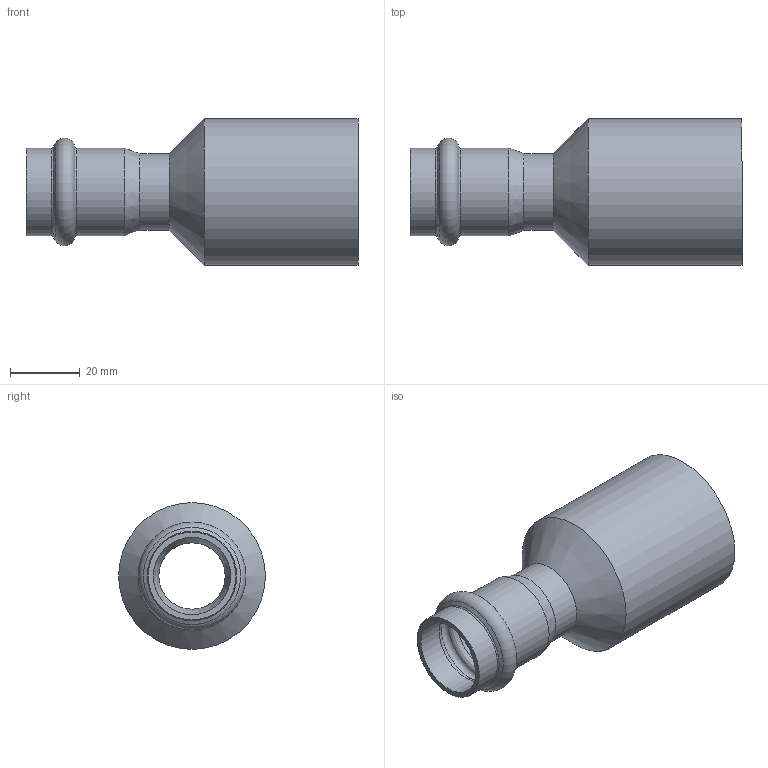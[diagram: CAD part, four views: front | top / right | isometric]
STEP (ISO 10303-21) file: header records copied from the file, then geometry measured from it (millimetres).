
FILE_DESCRIPTION((''),'2;1');
FILE_NAME('G:\Nirosan-Schmiedefeld\Technics\CAD\001 Serie 9.000\042\692434222H(2).stp','2017-05-08T14:32:25',('herberg'),(''),'Autodesk Inventor 2009','Autodesk Inventor 2009','');
FILE_SCHEMA(('AUTOMOTIVE_DESIGN { 1 0 10303 214 1 1 1 1 }'));
Length unit declared in the file: millimetre
Products named in the file (4): 692434222H(2); 69HM22P(1); 69KG4222P(0); 69FXR421544P(0)
Assembly tree (3 placements, depth 2):
  692434222H(2)
    69HM22P(1)
    69KG4222P(0)
    69FXR421544P(0)
Bounding box: 95 x 42 x 42 mm (x, y, z)
Volume: 14708.4 mm3; surface area: 21281.6 mm2
Topology: 3 solids, 3 shells, 26 faces, 48 edges, 28 vertices
Faces by surface type: cylinder 8, cone 6, plane 6, bspline 4, torus 2
Full cylindrical faces by diameter (mm): 19 x1, 22 x1, 22.15 x2, 25.15 x2, 39 x1, 42 x1
Entity records: 815 total; most frequent: CARTESIAN_POINT 261, DIRECTION 110, AXIS2_PLACEMENT_3D 55, ORIENTED_EDGE 52, EDGE_LOOP 52, VERTEX_POINT 26, CIRCLE 26, EDGE_CURVE 26
